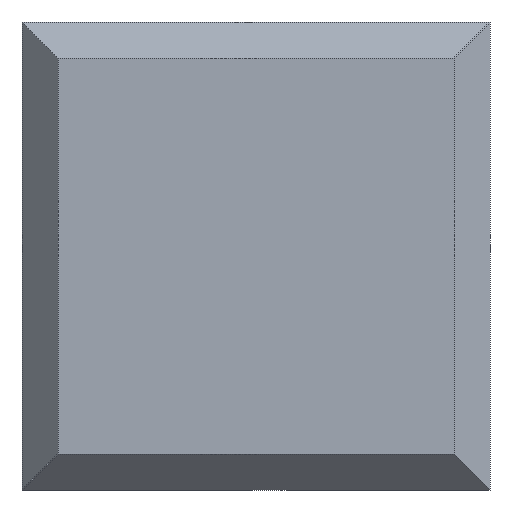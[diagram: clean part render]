
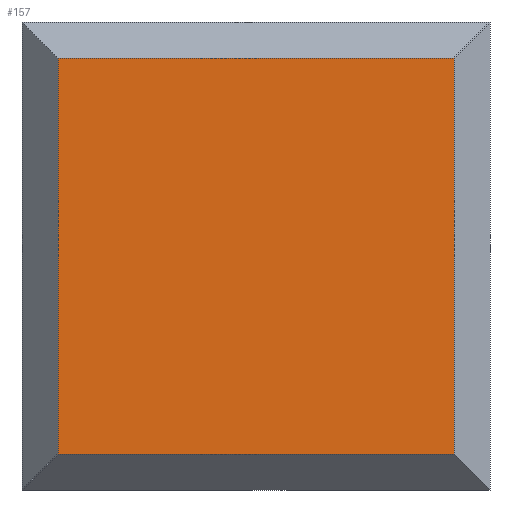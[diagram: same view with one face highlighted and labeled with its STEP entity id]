
A CAD part, front view. The second image highlights one B-rep face of the part: STEP entity #157.
In plain terms, the highlighted planar face has unit normal (0, -1, 0).
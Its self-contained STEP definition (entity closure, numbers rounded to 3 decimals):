
#38 = EDGE_CURVE ( 'NONE', #928, #873, #702, .T. ) ;
#40 = DIRECTION ( 'NONE',  ( -1., 0., 0. ) ) ;
#108 = VECTOR ( 'NONE', #336, 1000. ) ;
#157 = ADVANCED_FACE ( 'NONE', ( #611 ), #539, .T. ) ;
#207 = LINE ( 'NONE', #376, #525 ) ;
#227 = DIRECTION ( 'NONE',  ( 1., 0., 0. ) ) ;
#253 = CARTESIAN_POINT ( 'NONE',  ( 5.5, -6., 6.5 ) ) ;
#316 = EDGE_CURVE ( 'NONE', #951, #347, #908, .T. ) ;
#336 = DIRECTION ( 'NONE',  ( 0., 0., -1. ) ) ;
#347 = VERTEX_POINT ( 'NONE', #719 ) ;
#351 = ORIENTED_EDGE ( 'NONE', *, *, #801, .F. ) ;
#360 = CARTESIAN_POINT ( 'NONE',  ( 6.5, -6., -5.5 ) ) ;
#376 = CARTESIAN_POINT ( 'NONE',  ( 6.5, -6., 5.5 ) ) ;
#379 = ORIENTED_EDGE ( 'NONE', *, *, #316, .T. ) ;
#426 = LINE ( 'NONE', #360, #594 ) ;
#436 = CARTESIAN_POINT ( 'NONE',  ( -5.5, -6., 5.5 ) ) ;
#487 = DIRECTION ( 'NONE',  ( 0., -1., 0. ) ) ;
#520 = CARTESIAN_POINT ( 'NONE',  ( -5.5, -6., 5.5 ) ) ;
#525 = VECTOR ( 'NONE', #227, 1000. ) ;
#536 = CARTESIAN_POINT ( 'NONE',  ( 5.5, -6., 5.5 ) ) ;
#539 = PLANE ( 'NONE',  #880 ) ;
#594 = VECTOR ( 'NONE', #40, 1000. ) ;
#611 = FACE_OUTER_BOUND ( 'NONE', #960, .T. ) ;
#633 = DIRECTION ( 'NONE',  ( 0., 0., -1. ) ) ;
#646 = CARTESIAN_POINT ( 'NONE',  ( 5.5, -6., 5.5 ) ) ;
#652 = CARTESIAN_POINT ( 'NONE',  ( 5.5, -6., -5.5 ) ) ;
#700 = DIRECTION ( 'NONE',  ( -1., 0., 0. ) ) ;
#702 = LINE ( 'NONE', #253, #108 ) ;
#710 = VECTOR ( 'NONE', #633, 1000. ) ;
#719 = CARTESIAN_POINT ( 'NONE',  ( -5.5, -6., -5.5 ) ) ;
#801 = EDGE_CURVE ( 'NONE', #951, #928, #207, .T. ) ;
#873 = VERTEX_POINT ( 'NONE', #652 ) ;
#880 = AXIS2_PLACEMENT_3D ( 'NONE', #536, #487, #700 ) ;
#882 = ORIENTED_EDGE ( 'NONE', *, *, #38, .F. ) ;
#906 = ORIENTED_EDGE ( 'NONE', *, *, #954, .F. ) ;
#908 = LINE ( 'NONE', #520, #710 ) ;
#928 = VERTEX_POINT ( 'NONE', #646 ) ;
#951 = VERTEX_POINT ( 'NONE', #436 ) ;
#954 = EDGE_CURVE ( 'NONE', #873, #347, #426, .T. ) ;
#960 = EDGE_LOOP ( 'NONE', ( #351, #379, #906, #882 ) ) ;
